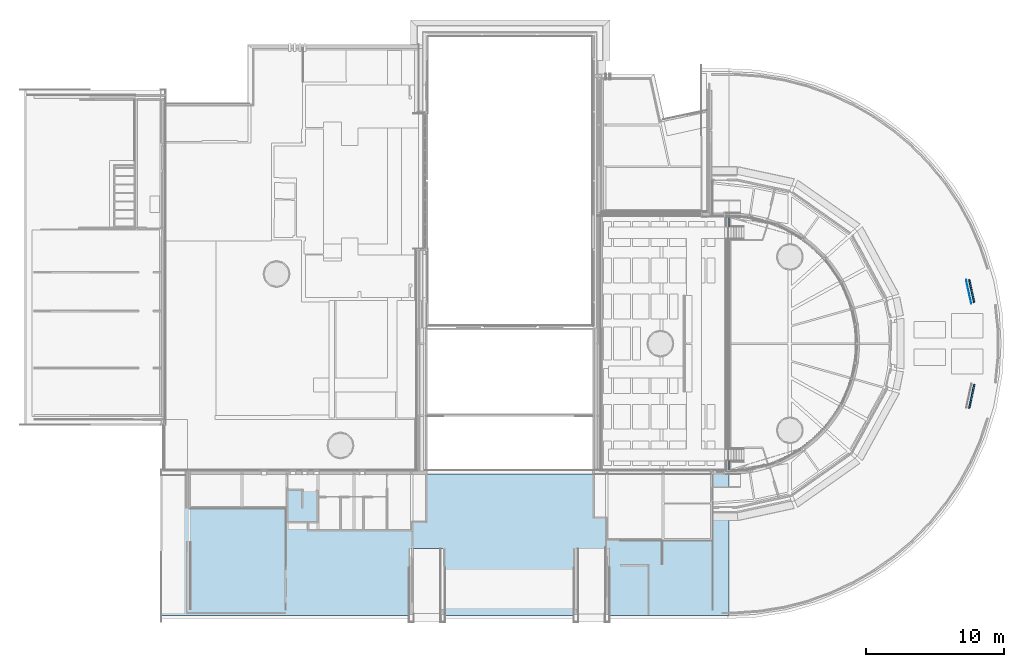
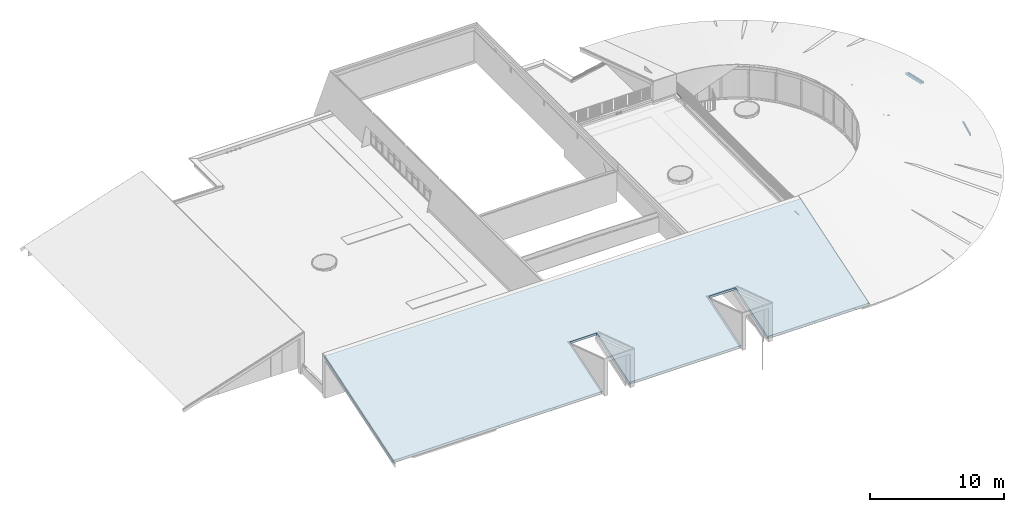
# One storey, part 53 of 66: 5 walls, 1 roof.
"""IFC2X3 building model written with IfcOpenShell, lengths in millimetres."""

from ifc_helpers import new_model, entity, si_unit, converted_unit, derived_unit, direction, frame, origin, place, context, subcontext, project, spatial, faceted_brep, material, layer, layer_set, type_object, element, save


model = new_model("IFC2X3")

# Units and contexts
model_context = context("Model", 3, precision=0.01, world=origin(), true_north=direction((6.12303176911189e-17, 1.0)))
body_context = subcontext(model_context, "Body", "Model", "MODEL_VIEW")
ifc_project = project(units=[si_unit("LENGTHUNIT", "METRE", prefix="MILLI"), si_unit("AREAUNIT", "SQUARE_METRE"), si_unit("VOLUMEUNIT", "CUBIC_METRE"), converted_unit("PLANEANGLEUNIT", "DEGREE", entity("IfcRatioMeasure", 0.0174532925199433), si_unit("PLANEANGLEUNIT", "RADIAN"), dimensions=[0, 0, 0, 0, 0, 0, 0]), si_unit("MASSUNIT", "GRAM", prefix="KILO"), derived_unit("MASSDENSITYUNIT", [(si_unit("MASSUNIT", "GRAM", prefix="KILO"), 1), (si_unit("LENGTHUNIT", "METRE"), -3)]), derived_unit("MOMENTOFINERTIAUNIT", [(si_unit("LENGTHUNIT", "METRE"), 4)]), si_unit("TIMEUNIT", "SECOND"), si_unit("FREQUENCYUNIT", "HERTZ"), si_unit("THERMODYNAMICTEMPERATUREUNIT", "DEGREE_CELSIUS"), derived_unit("THERMALTRANSMITTANCEUNIT", [(si_unit("MASSUNIT", "GRAM", prefix="KILO"), 1), (si_unit("THERMODYNAMICTEMPERATUREUNIT", "KELVIN"), -1), (si_unit("TIMEUNIT", "SECOND"), -3)]), derived_unit("VOLUMETRICFLOWRATEUNIT", [(si_unit("LENGTHUNIT", "METRE"), 3), (si_unit("TIMEUNIT", "SECOND"), -1)]), si_unit("ELECTRICCURRENTUNIT", "AMPERE"), si_unit("ELECTRICVOLTAGEUNIT", "VOLT"), si_unit("POWERUNIT", "WATT"), si_unit("FORCEUNIT", "NEWTON", prefix="KILO"), si_unit("ILLUMINANCEUNIT", "LUX"), si_unit("LUMINOUSFLUXUNIT", "LUMEN"), si_unit("LUMINOUSINTENSITYUNIT", "CANDELA"), derived_unit("USERDEFINED", [(si_unit("MASSUNIT", "GRAM", prefix="KILO"), -1), (si_unit("LENGTHUNIT", "METRE"), -2), (si_unit("TIMEUNIT", "SECOND"), 3), (si_unit("LUMINOUSFLUXUNIT", "LUMEN"), 1)]), derived_unit("LINEARVELOCITYUNIT", [(si_unit("LENGTHUNIT", "METRE"), 1), (si_unit("TIMEUNIT", "SECOND"), -1)]), si_unit("PRESSUREUNIT", "PASCAL"), derived_unit("USERDEFINED", [(si_unit("LENGTHUNIT", "METRE"), -2), (si_unit("MASSUNIT", "GRAM", prefix="KILO"), 1), (si_unit("TIMEUNIT", "SECOND"), -2)]), derived_unit("LINEARFORCEUNIT", [(si_unit("MASSUNIT", "GRAM", prefix="KILO"), 1), (si_unit("LENGTHUNIT", "METRE"), 1), (si_unit("TIMEUNIT", "SECOND"), -2), (si_unit("LENGTHUNIT", "METRE"), -1)]), derived_unit("PLANARFORCEUNIT", [(si_unit("MASSUNIT", "GRAM", prefix="KILO"), 1), (si_unit("LENGTHUNIT", "METRE"), 1), (si_unit("TIMEUNIT", "SECOND"), -2), (si_unit("LENGTHUNIT", "METRE"), -2)])], contexts=[model_context])

# Site, building, storey
site_placement = place(None, origin())
site = spatial("IfcSite", under=ifc_project, at=site_placement, Name="Default", CompositionType="ELEMENT")
building_placement = place(site_placement, origin())
building = spatial("IfcBuilding", under=site, at=building_placement, Name="-", CompositionType="ELEMENT")
storey_placement = place(building_placement, frame((0.0, 0.0, 3070.0)))
storey = spatial("IfcBuildingStorey", under=building, at=storey_placement, Name="01 eerste verdieping", CompositionType="ELEMENT", Elevation=3070.00000000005)

# Walls
ifc_material_1 = material(Name="NLRS_i4_hout_multiplex")
ifc_layer_1 = layer(ifc_material_1, 9.0)
ifc_material_2 = material(Name="NLRS_m1_isolatie")
ifc_layer_2 = layer(ifc_material_2, 89.0)
ifc_layer_3 = layer(ifc_material_1, 9.0)
ifc_layer_set_1 = layer_set([ifc_layer_1, ifc_layer_2, ifc_layer_3], Name="Basic Wall:NLRS_21_WA_HSB-wand_110mm")
wall_type_1 = type_object("IfcWallType", Name="Basic Wall:NLRS_21_WA_HSB-wand_110mm", PredefinedType="STANDARD", material=ifc_layer_set_1)
wall_1_placement = place(storey_placement, frame((68417.3185606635, 16667.4232582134, 150.0), z_axis=(0.0, 0.0, 1.0), x_axis=(-0.211580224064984, -0.977360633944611, 0.0)))
element("IfcWall", 1, at=wall_1_placement, inside=storey, type_object=wall_type_1, Name="Basic Wall:NLRS_21_WA_HSB-wand_110mm", ObjectType="Basic Wall:NLRS_21_WA_HSB-wand_110mm", context=body_context, shape_type="Brep", body=[
    faceted_brep([(1770.17104510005, -53.5000000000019, 0.0), (1736.13780049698, -53.4999999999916, 0.0), (1736.13780049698, 53.4999999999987, 0.0), (1770.17104510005, 53.4999999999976, 0.0), (33.8139678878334, -53.5000000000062, 0.0), (0.0, -53.4999999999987, 0.0), (0.0, 53.5000000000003, 0.0), (33.8139678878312, 53.4999999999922, 0.0), (33.8139678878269, -53.5000000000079, 40.0), (1736.13780049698, -53.4999999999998, 40.0), (1770.17104510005, -53.5000000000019, 237.19302065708), (786.739438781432, -53.5000000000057, 244.320650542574), (0.0, -53.4999999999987, 237.418025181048), (1736.13780049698, 53.4999999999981, 40.0), (33.8139678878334, 53.4999999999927, 40.0), (0.0, 53.5000000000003, 202.692944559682), (983.43325790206, 53.4999999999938, 209.529804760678), (1770.17104510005, 53.4999999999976, 202.469270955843), (1770.17104510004, -1.27006637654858e-05, 219.831213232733), (0.0, -1.23050745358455e-05, 220.055550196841)], [[[0, 1, 2, 3]], [[4, 5, 6, 7]], [[5, 4, 8, 9, 1, 0, 10, 11, 12]], [[3, 2, 13, 14, 7, 6, 15, 16, 17]], [[10, 0, 3, 17, 18]], [[5, 12, 19, 15, 6]], [[12, 11, 19]], [[16, 15, 19]], [[19, 11, 16]], [[18, 16, 11]], [[17, 16, 18]], [[18, 11, 10]], [[4, 7, 14, 8]], [[9, 8, 14, 13]], [[1, 9, 13, 2]]]),
])
wall_2_placement = place(storey_placement, frame((68404.5574819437, 22598.9226381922, 180.0), z_axis=(0.0, 0.0, 1.0), x_axis=(-0.215826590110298, 0.976431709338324, 0.0)))
element("IfcWall", 2, at=wall_2_placement, inside=storey, type_object=wall_type_1, Name="Basic Wall:NLRS_21_WA_HSB-wand_110mm", ObjectType="Basic Wall:NLRS_21_WA_HSB-wand_110mm", context=body_context, shape_type="Brep", body=[
    faceted_brep([(1696.55920626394, -53.5000000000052, 0.0), (1693.59846208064, -53.4999999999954, 0.0), (1693.59846208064, 53.4999999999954, 0.0), (1696.55920626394, 53.4999999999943, 0.0), (3.22175670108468, -53.5000000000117, 0.0), (0.0, -53.4999999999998, 0.0), (0.0, 53.4999999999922, 0.0), (3.22175670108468, 53.4999999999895, 0.0), (3.22175670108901, -53.5000000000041, 10.0), (1693.59846208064, -53.5000000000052, 10.0), (1696.55920626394, -53.5000000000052, 177.145550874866), (754.014622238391, -53.5000000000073, 182.325146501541), (0.0, -53.4999999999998, 174.953432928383), (1693.59846208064, 53.4999999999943, 10.0), (3.22175670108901, 53.4999999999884, 10.0), (0.0, 53.4999999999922, 209.674425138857), (942.528164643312, 53.49999999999, 217.335398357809), (1696.55920626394, 53.4999999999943, 211.879595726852), (1696.55920626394, 9.5532822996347e-06, 194.512624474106), (0.0, 1.339926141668e-05, 192.314000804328)], [[[0, 1, 2, 3]], [[4, 5, 6, 7]], [[5, 4, 8, 9, 1, 0, 10, 11, 12]], [[3, 2, 13, 14, 7, 6, 15, 16, 17]], [[10, 0, 3, 17, 18]], [[5, 12, 19, 15, 6]], [[17, 16, 18]], [[11, 10, 18]], [[18, 16, 11]], [[15, 19, 11]], [[12, 11, 19]], [[15, 11, 16]], [[8, 4, 7, 14]], [[9, 8, 14, 13]], [[1, 9, 13, 2]]]),
])
ifc_material_3 = material(Name="AL_Multiplex RAL 9002")
ifc_layer_4 = layer(ifc_material_3, 15.0)
ifc_layer_set_2 = layer_set([ifc_layer_4], Name="Basic Wall:NLRS_41_WA_plaatmateriaal 15mm RAL 9002")
wall_type_2 = type_object("IfcWallType", Name="Basic Wall:NLRS_41_WA_plaatmateriaal 15mm RAL 9002", PredefinedType="STANDARD", material=ifc_layer_set_2)
wall_3_placement = place(storey_placement, frame((68201.5518598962, 22520.0045023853, 190.0), z_axis=(0.0, 0.0, 1.0), x_axis=(-0.215826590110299, 0.976431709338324, 0.0)))
element("IfcWall", 3, at=wall_3_placement, inside=storey, type_object=wall_type_2, Name="Basic Wall:NLRS_41_WA_plaatmateriaal 15mm RAL 9002", ObjectType="Basic Wall:NLRS_41_WA_plaatmateriaal 15mm RAL 9002", context=body_context, shape_type="Brep", body=[
    faceted_brep([(0.0, -7.50000000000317, 0.0), (1759.05787497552, -7.50000000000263, 0.0), (1759.05787497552, -7.50000000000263, 251.529721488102), (1508.45377777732, -7.50000000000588, 252.981491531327), (1257.84968057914, -7.49999999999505, 254.433261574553), (781.79004313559, -7.50000000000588, 257.191114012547), (402.045599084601, -7.49999999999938, 253.289936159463), (201.022799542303, -7.50000000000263, 251.224795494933), (0.0, -7.50000000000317, 249.159654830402), (1759.05787497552, 7.49999999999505, 256.398513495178), (1759.05787497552, 7.49999999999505, 0.0), (0.0, 7.49999999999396, 0.0), (0.0, 7.49999999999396, 254.026450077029), (488.624564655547, 7.49999999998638, 258.177529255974), (732.93684698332, 7.49999999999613, 260.253068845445), (977.249129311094, 7.49999999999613, 262.328608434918), (1759.05787497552, -3.09611203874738e-07, 253.964118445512), (0.0, -4.32766223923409e-07, 251.59305378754)], [[[0, 1, 2, 3, 4, 5, 6, 7, 8]], [[9, 10, 11, 12, 13, 14, 15]], [[1, 0, 11, 10]], [[2, 1, 10, 9, 16]], [[0, 8, 17, 12, 11]], [[15, 4, 9]], [[7, 6, 12]], [[3, 2, 16]], [[4, 15, 5]], [[17, 8, 7]], [[17, 7, 12]], [[6, 13, 12]], [[5, 15, 14, 13]], [[5, 13, 6]], [[4, 3, 9]], [[9, 3, 16]]]),
])
ifc_material_4 = material(Name="ZZ_Default Wall")
wall_type_3 = type_object("IfcWallType", Name="Daktrim3:Daktrim", PredefinedType="NOTDEFINED", material=ifc_material_4)
wall_4_placement = place(storey_placement, frame((50593.1203904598, 10486.4106052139, 1677.0), z_axis=(0.0, 0.0, 1.0), x_axis=(0.0, 1.0, 0.0)))
element("IfcWall", 4, at=wall_4_placement, inside=storey, type_object=wall_type_3, material=ifc_material_4, Name="Daktrim3:Daktrim", ObjectType="Daktrim3:Daktrim", context=body_context, shape_type="Brep", body=[
    faceted_brep([(644.585991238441, -108.999999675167, 0.0), (644.585991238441, -106.03468986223, 0.0), (644.585991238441, -98.7851562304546, 6.0821522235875), (644.585991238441, -99.4282608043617, 6.84793074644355), (644.585991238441, -106.398617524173, 1.0), (644.585991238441, -108.0, 1.0), (644.585991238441, -108.0, 67.0), (644.585991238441, -99.9999996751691, 67.0), (644.585991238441, -99.9999996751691, 63.5253906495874), (644.585991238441, -98.9999996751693, 63.5253906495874), (644.585991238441, -98.9999996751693, 67.0), (644.585991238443, 0.0, 67.0), (644.585991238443, 0.0, 68.3496093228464), (644.585991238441, -107.999999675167, 68.3496093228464), (644.585991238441, -107.999999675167, 79.0), (644.585991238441, -98.9999996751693, 79.0), (644.585991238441, -98.9999996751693, 80.0), (644.585991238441, -108.999999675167, 80.0), (0.0, -108.999999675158, 0.0), (0.0, -106.034689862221, 0.0), (0.0, -98.7851562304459, 6.0821522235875), (0.0, -99.4282608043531, 6.84793074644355), (0.0, -106.398617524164, 1.0), (0.0, -108.0, 1.0), (0.0, -108.0, 67.0), (0.0, -99.9999996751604, 67.0), (0.0, -99.9999996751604, 63.5253906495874), (0.0, -98.9999996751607, 63.5253906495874), (0.0, -98.9999996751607, 67.0), (0.0, 0.0, 67.0), (0.0, 0.0, 68.3496093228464), (0.0, -107.999999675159, 68.3496093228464), (0.0, -107.999999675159, 79.0), (0.0, -98.9999996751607, 79.0), (0.0, -98.9999996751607, 80.0), (0.0, -108.999999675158, 80.0)], [[[0, 1, 2, 3, 4, 5, 6, 7, 8, 9, 10, 11, 12, 13, 14, 15, 16, 17]], [[1, 0, 18, 19]], [[2, 1, 19, 20]], [[3, 2, 20, 21]], [[4, 3, 21, 22]], [[5, 4, 22, 23]], [[6, 5, 23, 24]], [[7, 6, 24, 25]], [[8, 7, 25, 26]], [[9, 8, 26, 27]], [[10, 9, 27, 28]], [[11, 10, 28, 29]], [[12, 11, 29, 30]], [[13, 12, 30, 31]], [[14, 13, 31, 32]], [[15, 14, 32, 33]], [[16, 15, 33, 34]], [[17, 16, 34, 35]], [[0, 17, 35, 18]], [[18, 35, 34, 33, 32, 31, 30, 29, 28, 27, 26, 25, 24, 23, 22, 21, 20, 19]]]),
])
wall_type_4 = type_object("IfcWallType", Name="Daktrim4:Daktrim", PredefinedType="NOTDEFINED", material=ifc_material_4)
wall_5_placement = place(storey_placement, frame((50593.1203904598, 28080.9965964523, 1677.0), z_axis=(0.0, 0.0, 1.0), x_axis=(0.0, 1.0, 0.0)))
element("IfcWall", 5, at=wall_5_placement, inside=storey, type_object=wall_type_4, material=ifc_material_4, Name="Daktrim4:Daktrim", ObjectType="Daktrim4:Daktrim", context=body_context, shape_type="Brep", body=[
    faceted_brep([(664.712256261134, -108.999999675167, 0.0), (664.712256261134, -106.03468986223, 0.0), (664.712256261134, -98.7851562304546, 6.0821522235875), (664.712256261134, -99.4282608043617, 6.84793074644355), (664.712256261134, -106.398617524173, 1.0), (664.712256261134, -108.0, 1.0), (664.712256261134, -108.0, 67.0), (664.712256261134, -99.9999996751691, 67.0), (664.712256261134, -99.9999996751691, 63.5253906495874), (664.712256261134, -98.9999996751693, 63.5253906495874), (664.712256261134, -98.9999996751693, 67.0), (664.712256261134, 0.0, 67.0), (664.712256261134, 0.0, 68.3496093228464), (664.712256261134, -107.999999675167, 68.3496093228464), (664.712256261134, -107.999999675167, 79.0), (664.712256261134, -98.9999996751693, 79.0), (664.712256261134, -98.9999996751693, 80.0), (664.712256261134, -108.999999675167, 80.0), (0.0, -108.999999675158, 0.0), (0.0, -106.034689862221, 0.0), (0.0, -98.7851562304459, 6.0821522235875), (0.0, -99.4282608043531, 6.84793074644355), (0.0, -106.398617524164, 1.0), (0.0, -108.0, 1.0), (0.0, -108.0, 67.0), (0.0, -99.9999996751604, 67.0), (0.0, -99.9999996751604, 63.5253906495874), (0.0, -98.9999996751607, 63.5253906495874), (0.0, -98.9999996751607, 67.0), (0.0, 0.0, 67.0), (0.0, 0.0, 68.3496093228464), (0.0, -107.999999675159, 68.3496093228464), (0.0, -107.999999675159, 79.0), (0.0, -98.9999996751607, 79.0), (0.0, -98.9999996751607, 80.0), (0.0, -108.999999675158, 80.0)], [[[0, 1, 2, 3, 4, 5, 6, 7, 8, 9, 10, 11, 12, 13, 14, 15, 16, 17]], [[1, 0, 18, 19]], [[2, 1, 19, 20]], [[3, 2, 20, 21]], [[4, 3, 21, 22]], [[5, 4, 22, 23]], [[6, 5, 23, 24]], [[7, 6, 24, 25]], [[8, 7, 25, 26]], [[9, 8, 26, 27]], [[10, 9, 27, 28]], [[11, 10, 28, 29]], [[12, 11, 29, 30]], [[13, 12, 30, 31]], [[14, 13, 31, 32]], [[15, 14, 32, 33]], [[16, 15, 33, 34]], [[17, 16, 34, 35]], [[0, 17, 35, 18]], [[18, 35, 34, 33, 32, 31, 30, 29, 28, 27, 26, 25, 24, 23, 22, 21, 20, 19]]]),
])

# Roof
ifc_material_5 = material(Name="AL_Multiplex")
ifc_layer_5 = layer(ifc_material_5, 18.0)
ifc_layer_6 = layer(ifc_material_2, 271.0)
ifc_material_6 = material(Name="j7_hout_spaanplaat")
ifc_layer_7 = layer(ifc_material_6, 10.0)
ifc_layer_set_3 = layer_set([ifc_layer_5, ifc_layer_6, ifc_layer_7], Name="Basic Roof:27_Dakelement Rc 6,0m²K/W, aftimmerpakket")
roof_placement = place(storey_placement, frame((9533.0, -80.8026096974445, -149.127382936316)))
element("IfcRoof", 6, at=roof_placement, inside=storey, material=ifc_layer_set_3, Name="Basic Roof:27_Dakelement Rc 6,0m²K/W, aftimmerpakket", ObjectType="Basic Roof:27_Dakelement Rc 6,0m²K/W, aftimmerpakket", ShapeType="NOTDEFINED", context=body_context, shape_type="Brep", body=[
    faceted_brep([(0.0, 92.3960813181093, 0.0), (0.0, 10254.0, 3301.70525818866), (5908.43839442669, 10254.0, 3301.70525818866), (5908.43839442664, 250.923832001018, 51.5087885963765), (5908.43839442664, 143.923832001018, 16.7423810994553), (5908.43839442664, 92.3960813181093, 0.0), (41112.8395337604, 10254.0, 3616.0924632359), (0.0, 10254.0, 3616.0924632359), (0.0, 0.0, 284.365898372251), (18066.1642291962, 0.0, 284.365898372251), (18066.1642291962, 66.9238320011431, 306.110769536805), (18066.1642291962, 4449.77876322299, 1730.1866624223), (18066.1642291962, 4855.9059989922, 1862.14540050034), (20395.8156197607, 4855.9059989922, 1862.14540050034), (20395.8156197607, 4449.77006246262, 1730.18383537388), (20395.8156197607, 66.9238320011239, 306.110769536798), (20395.8156197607, 0.0, 284.365898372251), (30019.3848147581, 0.0, 284.365898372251), (30019.3848147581, 66.9238320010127, 306.110769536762), (30019.3848147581, 4449.77006246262, 1730.18383537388), (30019.3848147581, 4808.34688828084, 1846.6925086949), (32329.3848147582, 4808.34688828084, 1846.6925086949), (32329.3848147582, 4449.78388560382, 1730.18832678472), (32329.3848147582, 66.9238320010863, 306.110769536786), (32329.3848147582, 0.0, 284.365898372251), (41112.8395337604, 0.0, 284.365898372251), (41112.8395337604, 92.3960813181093, 0.0), (41112.8395337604, 6667.31154284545, 2136.3195345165), (41112.8395337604, 6775.7319857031, 2171.54747187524), (41112.8395337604, 10254.0, 3301.70525818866), (39893.4383944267, 10254.0, 3301.70525818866), (39893.4383944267, 10254.0, 3492.71947434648), (39763.4383944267, 10254.0, 3492.71947434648), (39763.4383944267, 10254.0, 3301.70525818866), (36403.4383944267, 10254.0, 3301.70525818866), (36403.4383944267, 10254.0, 3492.71947434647), (36273.4383944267, 10254.0, 3492.71947434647), (36273.4383944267, 10254.0, 3301.70525818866), (14018.4383944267, 10254.0, 3301.70525818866), (14018.4383944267, 10254.0, 3492.7194743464), (13888.4383944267, 10254.0, 3492.7194743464), (13888.4383944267, 10254.0, 3301.70525818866), (9168.4383944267, 10254.0, 3301.70525818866), (9168.4383944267, 10254.0, 3492.71947434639), (9038.43839442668, 10254.0, 3492.71947434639), (9038.43839442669, 10254.0, 3301.70525818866), (6038.4383944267, 10254.0, 3301.70525818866), (6038.4383944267, 10254.0, 3492.71947434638), (5908.43839442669, 10254.0, 3492.71947434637), (5908.43839442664, 36.2584117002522, 172.773981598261), (6038.43839442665, 36.2584117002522, 172.773981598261), (6038.43839442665, 92.3960813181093, 0.0), (9038.43839442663, 92.3960813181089, 0.0), (9038.43839442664, 36.2584117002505, 172.773981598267), (9168.43839442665, 36.2584117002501, 172.773981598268), (9168.43839442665, 92.3960813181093, 0.0), (13888.4383944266, 92.3960813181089, 0.0), (13888.4383944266, 36.258411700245, 172.773981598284), (14018.4383944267, 36.2584117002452, 172.773981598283), (14018.4383944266, 92.3960813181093, 0.0), (18066.1642291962, 92.396081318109, 0.0), (18066.1642291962, 70.5958538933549, 67.0942010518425), (18066.1642291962, 66.9238320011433, 78.3955223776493), (20395.8156197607, 4948.30208031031, 1577.77950212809), (20395.8156197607, 311.923832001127, 71.3288900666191), (20395.8156197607, 206.923832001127, 37.212321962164), (20395.8156197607, 92.3960813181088, 0.0), (20395.8156197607, 70.5755812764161, 67.1565937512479), (20395.8156197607, 66.923832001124, 78.3955223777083), (18066.1642291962, 206.923832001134, 37.2123219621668), (18066.1642291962, 311.923832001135, 71.3288900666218), (18066.1642291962, 4948.30208031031, 1577.77950212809), (32329.3848147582, 4900.74296959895, 1562.32661032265), (32329.3848147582, 4158.4238320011, 1321.13250162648), (32329.3848147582, 4058.4238320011, 1288.64053200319), (32329.3848147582, 2311.9238320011, 721.168282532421), (32329.3848147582, 2211.9238320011, 688.67631290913), (32329.3848147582, 311.923832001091, 71.3288900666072), (32329.3848147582, 206.92383200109, 37.2123219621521), (32329.3848147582, 92.3960813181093, 0.0), (32329.3848147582, 69.6590627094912, 69.9773478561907), (32329.3848147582, 66.9238320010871, 78.3955223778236), (30019.3848147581, 66.9238320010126, 78.3955223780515), (30019.3848147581, 70.5755812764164, 67.1565937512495), (30019.3848147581, 92.3960813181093, 0.0), (30019.3848147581, 206.923832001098, 37.2123219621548), (30019.3848147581, 311.923832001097, 71.3288900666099), (30019.3848147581, 4900.74296959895, 1562.32661032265), (36273.4383944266, 92.3960813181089, 0.0), (36273.4383944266, 36.2584117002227, 172.773981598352), (36403.4383944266, 36.2584117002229, 172.773981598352), (36403.4383944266, 92.3960813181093, 0.0), (39763.4383944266, 92.3960813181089, 0.0), (39763.4383944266, 36.25841170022, 172.773981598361), (39893.4383944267, 36.25841170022, 172.773981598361), (39893.4383944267, 92.3960813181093, 0.0), (39763.4383944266, 206.923832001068, 37.2123219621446), (39763.4383944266, 311.923832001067, 71.3288900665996), (39763.4383944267, 3536.56372600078, 1119.0779048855), (39763.4383944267, 3701.56372600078, 1172.68965476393), (39763.4383944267, 5401.56372600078, 1725.05313835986), (39763.4383944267, 5464.30777737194, 1745.4399164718), (39893.4383944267, 3701.56372600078, 1172.68965476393), (39893.4383944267, 3536.56372600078, 1119.0779048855), (39893.4383944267, 311.923832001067, 71.3288900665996), (39893.4383944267, 206.923832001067, 37.2123219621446), (36273.4383944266, 206.923832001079, 37.2123219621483), (36273.4383944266, 311.923832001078, 71.3288900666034), (36273.4383944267, 3536.5637260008, 1119.0779048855), (36273.4383944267, 3701.5637260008, 1172.68965476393), (36403.4383944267, 3701.5637260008, 1172.68965476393), (36403.4383944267, 3536.56372600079, 1119.0779048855), (36403.4383944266, 311.923832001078, 71.3288900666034), (36403.4383944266, 206.923832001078, 37.2123219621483), (13888.4383944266, 206.923832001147, 37.2123219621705), (13888.4383944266, 311.923832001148, 71.3288900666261), (13888.4383944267, 6098.92670509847, 1951.64010569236), (13888.4383944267, 6198.92670509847, 1984.13207531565), (13888.4383944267, 8540.42670509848, 2744.931544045), (13888.4383944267, 8640.42670509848, 2777.42351366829), (14018.4383944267, 8640.42670509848, 2777.42351366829), (14018.4383944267, 8540.42670509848, 2744.931544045), (14018.4383944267, 6198.92670509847, 1984.13207531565), (14018.4383944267, 6098.92670509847, 1951.64010569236), (14018.4383944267, 311.923832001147, 71.3288900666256), (14018.4383944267, 206.923832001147, 37.2123219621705), (9038.43839442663, 206.923832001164, 37.212321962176), (9038.43839442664, 311.923832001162, 71.328890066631), (9038.43839442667, 7729.42383200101, 2481.42073687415), (9038.43839442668, 7831.92383200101, 2514.72500573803), (9168.43839442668, 6831.53097198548, 2189.67766154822), (9168.43839442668, 6717.53097198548, 2152.63681617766), (9168.43839442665, 311.923832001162, 71.3288900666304), (9168.43839442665, 206.923832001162, 37.2123219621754), (6038.43839442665, 449.83194382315, 116.137951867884), (6038.43839442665, 440.83194382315, 113.213674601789), (6038.43839442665, 250.923832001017, 51.508788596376), (6038.43839442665, 143.923832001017, 16.7423810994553)], [[[0, 1, 2, 3, 4, 5]], [[6, 7, 8, 9, 10, 11, 12, 13, 14, 15, 16, 17, 18, 19, 20, 21, 22, 23, 24, 25]], [[26, 27, 28, 29, 6, 25]], [[7, 6, 29, 30, 31, 32, 33, 34, 35, 36, 37, 38, 39, 40, 41, 42, 43, 44, 45, 46, 47, 48, 2, 1]], [[9, 8, 0, 5, 49, 50, 51, 52, 53, 54, 55, 56, 57, 58, 59, 60, 61, 62]], [[1, 0, 8, 7]], [[16, 15, 14, 13, 63, 64, 65, 66, 67, 68]], [[12, 11, 10, 9, 62, 61, 60, 69, 70, 71]], [[71, 63, 13, 12]], [[24, 23, 22, 21, 72, 73, 74, 75, 76, 77, 78, 79, 80, 81]], [[20, 19, 18, 17, 82, 83, 84, 85, 86, 87]], [[87, 72, 21, 20]], [[17, 16, 68, 67, 66, 84, 83, 82]], [[25, 24, 81, 80, 79, 88, 89, 90, 91, 92, 93, 94, 95, 26]], [[31, 94, 93, 32]], [[32, 93, 92, 96, 97, 98, 99, 100, 101, 33]], [[94, 31, 30, 102, 103, 104, 105, 95]], [[35, 90, 89, 36]], [[36, 89, 88, 106, 107, 108, 109, 37]], [[90, 35, 34, 110, 111, 112, 113, 91]], [[39, 58, 57, 40]], [[40, 57, 56, 114, 115, 116, 117, 118, 119, 41]], [[58, 39, 38, 120, 121, 122, 123, 124, 125, 59]], [[43, 54, 53, 44]], [[44, 53, 52, 126, 127, 128, 129, 45]], [[54, 43, 42, 130, 131, 132, 133, 55]], [[47, 50, 49, 48]], [[48, 49, 5, 4, 3, 2]], [[50, 47, 46, 134, 135, 136, 137, 51]], [[52, 51, 137, 136, 135, 134, 46, 45, 129, 128, 127, 126]], [[56, 55, 133, 132, 131, 130, 42, 41, 119, 118, 117, 116, 115, 114]], [[63, 71, 70, 69, 60, 59, 125, 124, 123, 122, 121, 120, 38, 37, 109, 108, 107, 106, 88, 79, 78, 77, 76, 75, 74, 73, 72, 87, 86, 85, 84, 66, 65, 64]], [[92, 91, 113, 112, 111, 110, 34, 33, 101, 100, 99, 98, 97, 96]], [[29, 28, 27, 26, 95, 105, 104, 103, 102, 30]]]),
])

save(model, "model.ifc")
